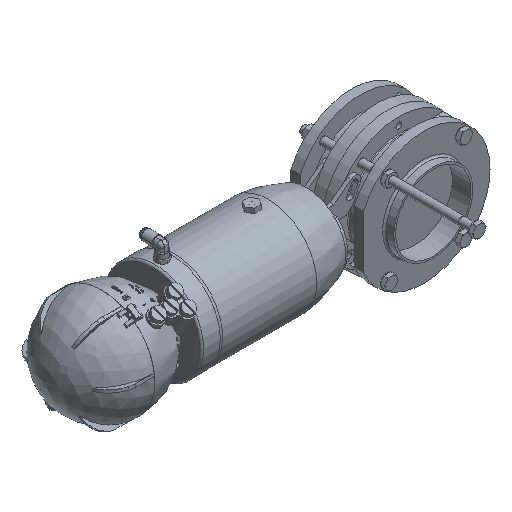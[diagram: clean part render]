
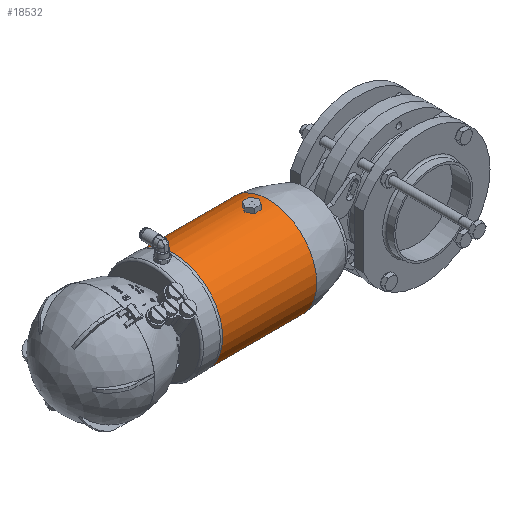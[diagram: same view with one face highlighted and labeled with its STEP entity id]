
A CAD part, isometric view. The second image highlights one B-rep face of the part: STEP entity #18532.
In plain terms, the highlighted cylindrical face has radius 52 mm (diameter 104 mm), a full revolution.
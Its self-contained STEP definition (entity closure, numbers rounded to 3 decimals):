
#721=B_SPLINE_CURVE_WITH_KNOTS('',3,(#29148,#29149,#29150,#29151,#29152,
#29153,#29154,#29155,#29156,#29157),.UNSPECIFIED.,.F.,.F.,(4,2,2,2,4),(2.276,
2.466,2.656,2.845,3.034),
 .UNSPECIFIED.);
#722=B_SPLINE_CURVE_WITH_KNOTS('',3,(#29159,#29160,#29161,#29162,#29163,
#29164,#29165,#29166,#29167,#29168,#29169,#29170,#29171,#29172,#29173,#29174,
#29175,#29176),.UNSPECIFIED.,.F.,.F.,(4,2,2,2,2,2,2,2,4),(0.759,
0.949,1.139,1.328,1.517,1.706,
1.895,2.086,2.276),.UNSPECIFIED.);
#723=B_SPLINE_CURVE_WITH_KNOTS('',3,(#29177,#29178,#29179,#29180,#29181,
#29182,#29183,#29184,#29185,#29186),.UNSPECIFIED.,.F.,.F.,(4,2,2,2,4),(3.034,
3.224,3.413,3.603,3.793),
 .UNSPECIFIED.);
#988=CYLINDRICAL_SURFACE('',#19957,52.);
#2039=FACE_BOUND('',#5599,.T.);
#2040=FACE_BOUND('',#5600,.T.);
#2339=LINE('',#28953,#3451);
#2342=LINE('',#28985,#3454);
#2372=LINE('',#29224,#3484);
#3451=VECTOR('',#22672,10.);
#3454=VECTOR('',#22685,10.);
#3484=VECTOR('',#22843,52.);
#4539=FACE_OUTER_BOUND('',#5598,.T.);
#5598=EDGE_LOOP('',(#12822,#12823,#12824,#12825,#12826,#12827));
#5599=EDGE_LOOP('',(#12828,#12829,#12830,#12831));
#5600=EDGE_LOOP('',(#12832,#12833,#12834));
#6682=CIRCLE('',#19892,52.);
#6683=CIRCLE('',#19895,52.);
#6692=CIRCLE('',#19914,52.);
#6693=CIRCLE('',#19915,52.);
#6713=CIRCLE('',#19955,52.);
#6714=CIRCLE('',#19956,52.);
#7636=VERTEX_POINT('',#28950);
#7637=VERTEX_POINT('',#28952);
#7640=VERTEX_POINT('',#28960);
#7642=VERTEX_POINT('',#28984);
#7652=VERTEX_POINT('',#29060);
#7653=VERTEX_POINT('',#29062);
#7680=VERTEX_POINT('',#29145);
#7681=VERTEX_POINT('',#29147);
#7682=VERTEX_POINT('',#29158);
#7684=VERTEX_POINT('',#29218);
#7685=VERTEX_POINT('',#29220);
#9586=EDGE_CURVE('',#7637,#7636,#2339,.T.);
#9590=EDGE_CURVE('',#7640,#7637,#6682,.T.);
#9593=EDGE_CURVE('',#7642,#7640,#2342,.T.);
#9595=EDGE_CURVE('',#7636,#7642,#6683,.T.);
#9614=EDGE_CURVE('',#7653,#7652,#6692,.T.);
#9615=EDGE_CURVE('',#7652,#7653,#6693,.T.);
#9652=EDGE_CURVE('',#7681,#7680,#721,.T.);
#9653=EDGE_CURVE('',#7682,#7681,#722,.T.);
#9654=EDGE_CURVE('',#7680,#7682,#723,.T.);
#9658=EDGE_CURVE('',#7685,#7684,#6713,.T.);
#9659=EDGE_CURVE('',#7684,#7685,#6714,.T.);
#9660=EDGE_CURVE('',#7653,#7685,#2372,.T.);
#12822=ORIENTED_EDGE('',*,*,#9614,.T.);
#12823=ORIENTED_EDGE('',*,*,#9615,.T.);
#12824=ORIENTED_EDGE('',*,*,#9660,.T.);
#12825=ORIENTED_EDGE('',*,*,#9658,.T.);
#12826=ORIENTED_EDGE('',*,*,#9659,.T.);
#12827=ORIENTED_EDGE('',*,*,#9660,.F.);
#12828=ORIENTED_EDGE('',*,*,#9595,.T.);
#12829=ORIENTED_EDGE('',*,*,#9593,.T.);
#12830=ORIENTED_EDGE('',*,*,#9590,.T.);
#12831=ORIENTED_EDGE('',*,*,#9586,.T.);
#12832=ORIENTED_EDGE('',*,*,#9653,.T.);
#12833=ORIENTED_EDGE('',*,*,#9652,.T.);
#12834=ORIENTED_EDGE('',*,*,#9654,.T.);
#18532=ADVANCED_FACE('',(#4539,#2039,#2040),#988,.T.);
#19892=AXIS2_PLACEMENT_3D('',#28961,#22680,#22681);
#19895=AXIS2_PLACEMENT_3D('',#28988,#22689,#22690);
#19914=AXIS2_PLACEMENT_3D('',#29063,#22735,#22736);
#19915=AXIS2_PLACEMENT_3D('',#29064,#22737,#22738);
#19955=AXIS2_PLACEMENT_3D('',#29221,#22837,#22838);
#19956=AXIS2_PLACEMENT_3D('',#29222,#22839,#22840);
#19957=AXIS2_PLACEMENT_3D('',#29223,#22841,#22842);
#22672=DIRECTION('',(0.,1.,0.));
#22680=DIRECTION('center_axis',(0.,-1.,0.));
#22681=DIRECTION('ref_axis',(0.,0.,
1.));
#22685=DIRECTION('',(0.,-1.,0.));
#22689=DIRECTION('center_axis',(0.,1.,0.));
#22690=DIRECTION('ref_axis',(0.,0.,
1.));
#22735=DIRECTION('center_axis',(0.,-1.,0.));
#22736=DIRECTION('ref_axis',(0.,0.,
1.));
#22737=DIRECTION('center_axis',(0.,-1.,0.));
#22738=DIRECTION('ref_axis',(0.,0.,
1.));
#22837=DIRECTION('center_axis',(0.,1.,0.));
#22838=DIRECTION('ref_axis',(1.,0.,0.));
#22839=DIRECTION('center_axis',(0.,1.,0.));
#22840=DIRECTION('ref_axis',(1.,0.,0.));
#22841=DIRECTION('center_axis',(0.,1.,0.));
#22842=DIRECTION('ref_axis',(-1.,0.,0.));
#22843=DIRECTION('',(0.,-1.,0.));
#28950=CARTESIAN_POINT('',(15.,77.,-49.79));
#28952=CARTESIAN_POINT('',(15.,74.,-49.79));
#28953=CARTESIAN_POINT('',(15.,106.75,-49.79));
#28960=CARTESIAN_POINT('',(-15.,74.,-49.79));
#28961=CARTESIAN_POINT('Origin',(0.,74.,
0.));
#28984=CARTESIAN_POINT('',(-15.,77.,-49.79));
#28985=CARTESIAN_POINT('',(-15.,106.75,-49.79));
#28988=CARTESIAN_POINT('Origin',(0.,77.,
0.));
#29060=CARTESIAN_POINT('',(0.,142.5,-52.));
#29062=CARTESIAN_POINT('',(52.,142.5,0.));
#29063=CARTESIAN_POINT('Origin',(0.,142.5,0.));
#29064=CARTESIAN_POINT('Origin',(0.,142.5,0.));
#29145=CARTESIAN_POINT('',(-4.963,59.,51.763));
#29147=CARTESIAN_POINT('',(0.,53.9,52.));
#29148=CARTESIAN_POINT('Ctrl Pts',(0.,53.9,
52.));
#29149=CARTESIAN_POINT('Ctrl Pts',(-0.634,53.9,
52.));
#29150=CARTESIAN_POINT('Ctrl Pts',(-1.308,54.033,51.987));
#29151=CARTESIAN_POINT('Ctrl Pts',(-2.541,54.566,51.942));
#29152=CARTESIAN_POINT('Ctrl Pts',(-3.1,54.966,51.909));
#29153=CARTESIAN_POINT('Ctrl Pts',(-3.973,55.879,51.85));
#29154=CARTESIAN_POINT('Ctrl Pts',(-4.348,56.45,51.819));
#29155=CARTESIAN_POINT('Ctrl Pts',(-4.842,57.696,51.775));
#29156=CARTESIAN_POINT('Ctrl Pts',(-4.963,58.37,51.763));
#29157=CARTESIAN_POINT('Ctrl Pts',(-4.963,59.,51.763));
#29158=CARTESIAN_POINT('',(0.,64.1,52.));
#29159=CARTESIAN_POINT('Ctrl Pts',(0.,64.1,
52.));
#29160=CARTESIAN_POINT('Ctrl Pts',(0.634,64.1,52.));
#29161=CARTESIAN_POINT('Ctrl Pts',(1.308,63.967,51.987));
#29162=CARTESIAN_POINT('Ctrl Pts',(2.541,63.434,51.942));
#29163=CARTESIAN_POINT('Ctrl Pts',(3.1,63.034,51.909));
#29164=CARTESIAN_POINT('Ctrl Pts',(3.973,62.121,51.85));
#29165=CARTESIAN_POINT('Ctrl Pts',(4.348,61.55,51.819));
#29166=CARTESIAN_POINT('Ctrl Pts',(4.842,60.304,51.775));
#29167=CARTESIAN_POINT('Ctrl Pts',(4.963,59.63,51.763));
#29168=CARTESIAN_POINT('Ctrl Pts',(4.963,58.37,51.763));
#29169=CARTESIAN_POINT('Ctrl Pts',(4.842,57.696,51.775));
#29170=CARTESIAN_POINT('Ctrl Pts',(4.348,56.45,51.819));
#29171=CARTESIAN_POINT('Ctrl Pts',(3.973,55.879,51.85));
#29172=CARTESIAN_POINT('Ctrl Pts',(3.1,54.966,51.909));
#29173=CARTESIAN_POINT('Ctrl Pts',(2.541,54.566,51.942));
#29174=CARTESIAN_POINT('Ctrl Pts',(1.308,54.033,51.987));
#29175=CARTESIAN_POINT('Ctrl Pts',(0.634,53.9,52.));
#29176=CARTESIAN_POINT('Ctrl Pts',(0.,53.9,
52.));
#29177=CARTESIAN_POINT('Ctrl Pts',(-4.963,59.,51.763));
#29178=CARTESIAN_POINT('Ctrl Pts',(-4.963,59.63,51.763));
#29179=CARTESIAN_POINT('Ctrl Pts',(-4.842,60.304,51.775));
#29180=CARTESIAN_POINT('Ctrl Pts',(-4.348,61.55,51.819));
#29181=CARTESIAN_POINT('Ctrl Pts',(-3.973,62.121,51.85));
#29182=CARTESIAN_POINT('Ctrl Pts',(-3.1,63.034,51.909));
#29183=CARTESIAN_POINT('Ctrl Pts',(-2.541,63.434,51.942));
#29184=CARTESIAN_POINT('Ctrl Pts',(-1.308,63.967,51.987));
#29185=CARTESIAN_POINT('Ctrl Pts',(-0.634,64.1,
52.));
#29186=CARTESIAN_POINT('Ctrl Pts',(0.,64.1,
52.));
#29218=CARTESIAN_POINT('',(0.,41.351,-52.));
#29220=CARTESIAN_POINT('',(52.,41.351,0.));
#29221=CARTESIAN_POINT('Origin',(0.,41.351,0.));
#29222=CARTESIAN_POINT('Origin',(0.,41.351,0.));
#29223=CARTESIAN_POINT('Origin',(0.,56.176,0.));
#29224=CARTESIAN_POINT('',(52.,56.176,0.));
